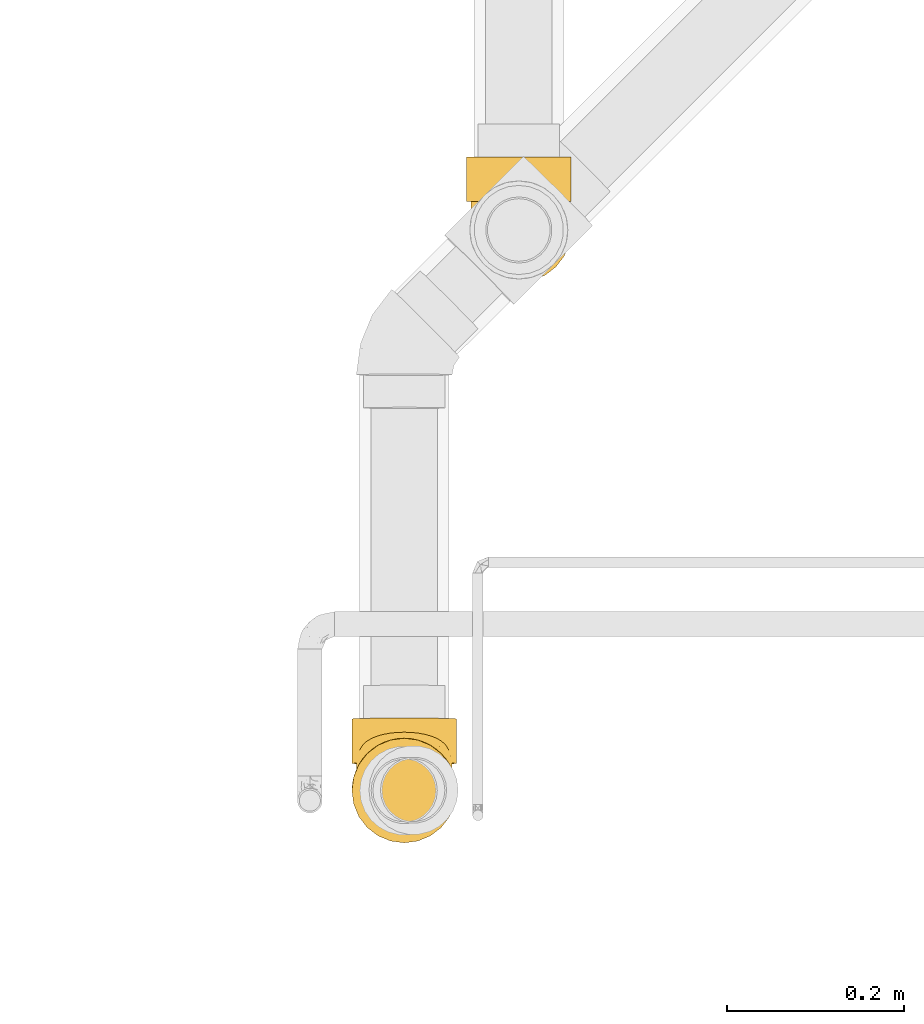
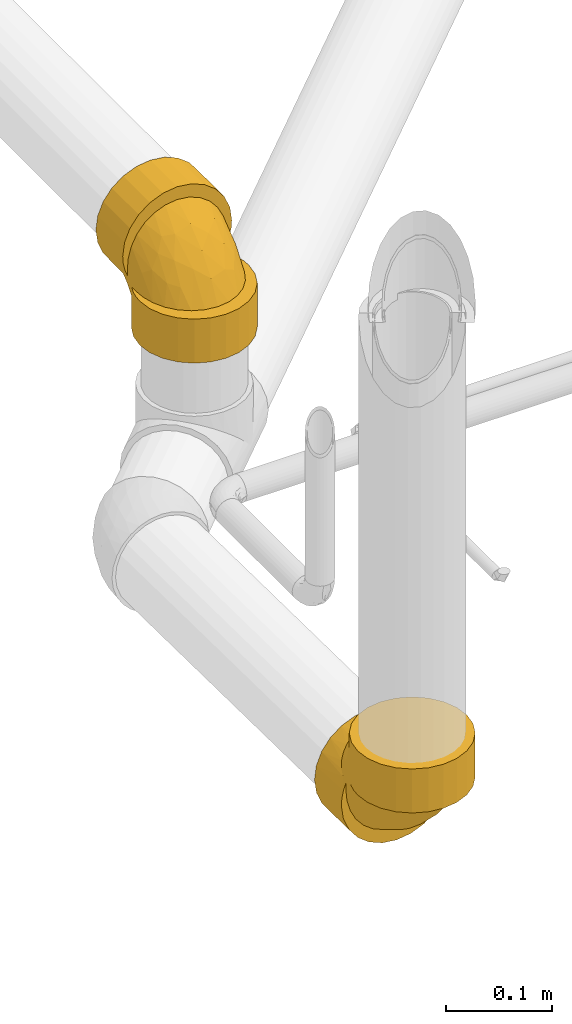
# One storey, part 15 of 156: 2 coverings.
"""IFC2X3 building model written with IfcOpenShell, lengths in millimetres."""

from ifc_helpers import new_model, entity, si_unit, converted_unit, derived_unit, direction, frame, origin_with_axes, place, context, subcontext, project, spatial, open_shell, surface_model, source, transform, mapped, element, save


model = new_model("IFC2X3")

# Units and contexts
model_context = context("Model", 3, precision=0.01, world=frame((0.0, 4.29681676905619e-09, 0.0)), true_north=direction((4.01073788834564e-13, 1.0)))
plan_context = context("Plan", 3, precision=0.01, world=frame((0.0, 4.29681676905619e-09, 0.0)), true_north=direction((4.01073788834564e-13, 1.0)))
body_context = subcontext(model_context, "Body", "Model", "MODEL_VIEW")
ifc_project = project(units=[converted_unit("PLANEANGLEUNIT", "DEGREE", entity("IfcPositiveLengthMeasure", 0.0174532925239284), si_unit("PLANEANGLEUNIT", "RADIAN"), dimensions=[0, 0, 0, 0, 0, 0, 0]), si_unit("AREAUNIT", "SQUARE_METRE"), si_unit("LENGTHUNIT", "METRE", prefix="MILLI"), si_unit("MASSUNIT", "GRAM", prefix="KILO"), si_unit("POWERUNIT", "WATT"), si_unit("PRESSUREUNIT", "PASCAL", prefix="KILO"), si_unit("FORCEUNIT", "NEWTON", prefix="KILO"), si_unit("ELECTRICVOLTAGEUNIT", "VOLT"), si_unit("ELECTRICCURRENTUNIT", "AMPERE"), si_unit("THERMODYNAMICTEMPERATUREUNIT", "DEGREE_CELSIUS"), si_unit("TIMEUNIT", "SECOND"), si_unit("VOLUMEUNIT", "CUBIC_METRE"), derived_unit("LINEARVELOCITYUNIT", [(si_unit("LENGTHUNIT", "METRE"), 1), (si_unit("TIMEUNIT", "SECOND"), -1)]), derived_unit("VOLUMETRICFLOWRATEUNIT", [(si_unit("VOLUMEUNIT", "CUBIC_METRE"), 1), (si_unit("TIMEUNIT", "SECOND"), -1)]), derived_unit("THERMALTRANSMITTANCEUNIT", [(si_unit("POWERUNIT", "WATT"), 1), (si_unit("THERMODYNAMICTEMPERATUREUNIT", "KELVIN"), -1), (si_unit("AREAUNIT", "SQUARE_METRE"), -1)]), derived_unit("SOUNDPRESSUREUNIT", [(si_unit("PRESSUREUNIT", "PASCAL"), 1)])], contexts=[model_context, plan_context])

# Site, building, storey
site_placement = place(None, frame((0.0, -4.29681676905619e-09, 0.0), z_axis=(0.0, 0.0, 1.0), x_axis=(1.0, 0.0, 0.0)))
site = spatial("IfcSite", under=ifc_project, at=site_placement, CompositionType="ELEMENT")
building_placement = place(site_placement, frame((0.0, 4.29681676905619e-09, 0.0), z_axis=(0.0, 0.0, 1.0), x_axis=(1.0, 0.0, 0.0)))
building = spatial("IfcBuilding", under=site, at=building_placement, Name="mc-building", CompositionType="ELEMENT")
storey_placement = place(building_placement, frame((0.0, 0.0, 205200.0), z_axis=(0.0, 0.0, 1.0), x_axis=(1.0, 0.0, 0.0)))
storey = spatial("IfcBuildingStorey", under=building, at=storey_placement, Name="Nivå D + 1,2 m", CompositionType="ELEMENT", Elevation=205200.0)

# Coverings
shared_shape_1 = source(origin_with_axes(), body_context, "Body", "SurfaceModel", [
    surface_model("IfcShellBasedSurfaceModel", [(-32.0, 8.41085, -58.64998), (-32.0, 16.6065, -56.87518), (-32.0, 17.26197, -54.25), (-32.0, 24.46457, -53.96339), (-32.0, 20.8661, -54.17668), (-32.0, -57.2311, -15.33503), (-32.0, -44.58388, 0.0), (-32.0, -59.25, 0.0), (-32.0, 20.8661, 54.17668), (-32.0, 24.46457, 53.96339), (-32.0, 16.6065, 56.87518), (-32.0, 17.26197, 54.25), (-32.0, 8.41085, 58.64998), (-32.0, -57.2311, 15.33503), (-82.5, 0.0, 59.25), (-82.5, 15.33503, 57.2311), (-82.5, 29.625, 51.31201), (-82.5, 51.31201, 29.625), (-82.5, 57.2311, 15.33503), (-82.5, 41.89608, 41.89608), (-82.5, -15.33503, 57.2311), (-82.5, -41.89608, 41.89608), (-82.5, -29.625, 51.31201), (-82.5, -57.2311, 15.33503), (-82.5, -51.31201, 29.625), (-82.5, 57.2311, -15.33503), (-82.5, -57.2311, -15.33503), (-82.5, -59.25, 0.0), (-82.5, 51.31201, -29.625), (-82.5, 29.625, -51.31201), (-82.5, 15.33503, -57.2311), (-82.5, 41.89608, -41.89608), (-82.5, -41.89608, -41.89608), (-82.5, -51.31201, -29.625), (-82.5, -29.625, -51.31201), (-82.5, 0.0, -59.25), (-82.5, -15.33503, -57.2311), (-82.5, 59.25, 0.0), (-66.45319, 59.25, 0.0), (-82.5, 58.24055, 7.66751), (-64.03864, 54.29672, 23.71559), (-82.5, 54.27156, 22.48001), (-66.18549, 58.68653, 8.1519), (-59.58833, 46.1673, 37.13681), (-65.38224, 57.01529, 16.11891), (-62.12931, 50.63153, 30.77353), (-56.28778, 41.12001, 42.65802), (-52.0235, 35.82362, 47.19355), (-39.78206, 26.81988, 52.83234), (-46.55227, 30.81047, 50.60907), (-32.0, 0.0, 59.25), (-32.0, -15.33503, 57.2311), (-32.0, -41.89608, 41.89608), (-32.0, -29.625, 51.31201), (-32.0, -51.31201, 29.625), (-32.0, -51.31201, -29.625), (-32.0, -41.89608, -41.89608), (-32.0, -29.625, -51.31201), (-32.0, -15.33503, -57.2311), (-32.0, 0.0, -59.25), (-52.0235, 35.82362, -47.19355), (-46.55227, 30.81047, -50.60907), (-66.18549, 58.68653, -8.1519), (-82.5, 58.24055, -7.66751), (-39.78206, 26.81988, -52.83234), (-64.03864, 54.29672, -23.71559), (-82.5, 54.27156, -22.48001), (-59.58833, 46.1673, -37.13681), (-65.38224, 57.01529, -16.11891), (-56.28778, 41.12001, -42.65802), (-62.12931, 50.63153, -30.77353), (57.2311, 32.0, -15.33503), (59.25, 32.0, 0.0), (44.58388, 32.0, 0.0), (-17.26197, 32.0, -54.25), (-16.6065, 32.0, -56.87518), (-8.41085, 32.0, -58.64998), (-20.8661, 32.0, -54.17668), (-24.46457, 32.0, -53.96339), (-24.46457, 32.0, 53.96339), (-20.8661, 32.0, 54.17668), (-16.6065, 32.0, 56.87518), (-17.26197, 32.0, 54.25), (-8.41085, 32.0, 58.64998), (57.2311, 32.0, 15.33503), (0.0, 82.5, 59.25), (15.33503, 82.5, 57.2311), (29.625, 82.5, 51.31201), (51.31201, 82.5, 29.625), (41.89608, 82.5, 41.89608), (-15.33503, 82.5, 57.2311), (-41.89608, 82.5, 41.89608), (-29.625, 82.5, 51.31201), (-57.2311, 82.5, 15.33503), (-51.31201, 82.5, 29.625), (57.2311, 82.5, -15.33503), (57.2311, 82.5, 15.33503), (59.25, 82.5, 0.0), (51.31201, 32.0, 29.625), (41.89608, 32.0, 41.89608), (29.625, 32.0, 51.31201), (15.33503, 32.0, 57.2311), (0.0, 32.0, 59.25), (-35.82362, 52.0235, 47.19355), (-30.81047, 46.55227, 50.60907), (-58.68653, 66.18549, 8.1519), (-58.24055, 82.5, 7.66751), (-26.81988, 39.78206, 52.83234), (-54.29672, 64.03864, 23.71559), (-54.27156, 82.5, 22.48001), (-46.1673, 59.58833, 37.13681), (-59.25, 82.5, 0.0), (-59.25, 66.45319, 0.0), (-57.01529, 65.38224, 16.11891), (-41.12001, 56.28778, 42.65802), (-50.63153, 62.12931, 30.77353), (-58.24055, 82.5, -7.66751), (-54.29672, 64.03864, -23.71559), (-54.27156, 82.5, -22.48001), (-51.31201, 82.5, -29.625), (-58.68653, 66.18549, -8.1519), (-57.2311, 82.5, -15.33503), (-46.1673, 59.58833, -37.13681), (-41.89608, 82.5, -41.89608), (-57.01529, 65.38224, -16.11891), (-50.63153, 62.12931, -30.77353), (-41.12001, 56.28778, -42.65802), (-35.82362, 52.0235, -47.19355), (-26.81988, 39.78206, -52.83234), (-29.625, 82.5, -51.31201), (-15.33503, 82.5, -57.2311), (-30.81047, 46.55227, -50.60907), (0.0, 82.5, -59.25), (0.0, 32.0, -59.25), (15.33503, 82.5, -57.2311), (15.33503, 32.0, -57.2311), (29.625, 82.5, -51.31201), (29.625, 32.0, -51.31201), (41.89608, 82.5, -41.89608), (41.89608, 32.0, -41.89608), (51.31201, 32.0, -29.625), (51.31201, 82.5, -29.625), (-41.88717, 41.88717, 48.11257), (-61.44486, 61.44486, 12.77852), (-24.16369, 24.16369, 54.25), (-28.51203, 20.33396, 54.25), (-20.33396, 28.51203, 54.25), (-57.00686, 57.00686, 28.0306), (-50.1534, 50.1534, 39.90153), (-62.52423, 62.52423, 0.0), (-59.60263, 59.60264, -20.76594), (-53.80982, 53.80982, -34.42785), (-61.84432, 61.84433, -10.16869), (-46.15393, 46.15393, -44.45133), (-37.33805, 37.33805, -50.95032), (-20.33396, 28.51203, -54.25), (-28.51203, 20.33396, -54.25), (-24.16369, 24.16369, -54.25), (-32.0, -8.40767, 49.81096), (-32.0, 4.22808, 53.19455), (-32.0, -20.08978, 43.91948), (-32.0, -42.89141, 12.96252), (-32.0, -37.95287, 25.06845), (-32.0, -30.16019, 35.57071), (42.89141, 32.0, 12.96252), (37.95287, 32.0, 25.06845), (30.16019, 32.0, 35.57071), (20.08978, 32.0, 43.91948), (-4.22808, 32.0, 53.19455), (8.40767, 32.0, 49.81096), (-2.34317, 2.34317, 44.61829), (-7.34968, -31.74969, 0.0), (-11.88948, -24.72354, 28.94168), (2.49402, -22.28323, 13.97019), (-9.92378, -14.49886, 38.07406), (9.10917, -9.10918, 26.99807), (27.12067, 5.75185, 17.59648), (14.19685, -14.19685, 0.0), (31.74969, 7.34968, 0.0), (11.94466, 4.57742, 36.71245), (24.76323, 11.80749, 28.81724), (-9.19121, 11.22481, 50.52862), (-32.0, 4.22808, -53.19455), (-32.0, -8.40767, -49.81096), (-32.0, -20.08978, -43.91948), (-32.0, -30.16019, -35.57071), (-32.0, -37.95287, -25.06845), (-32.0, -42.89141, -12.96252), (30.16019, 32.0, -35.57071), (37.95287, 32.0, -25.06845), (20.08978, 32.0, -43.91948), (42.89141, 32.0, -12.96252), (-4.22808, 32.0, -53.19455), (8.40767, 32.0, -49.81096), (-2.34317, 2.34317, -44.61829), (14.49886, 9.92378, -38.07406), (-4.57742, -11.94466, -36.71245), (24.72353, 11.88948, -28.94168), (9.10917, -9.10918, -26.99807), (-11.22481, 9.19121, -50.52862), (22.28323, -2.49403, -13.97019), (-5.75186, -27.12067, -17.59648), (-11.8075, -24.76323, -28.81724)], [open_shell([[[0, 1, 2]], [[3, 4, 1]], [[4, 2, 1]], [[5, 6, 7]], [[8, 9, 10]], [[11, 10, 12]], [[10, 11, 8]], [[7, 6, 13]], [[14, 15, 16]], [[14, 16, 17]], [[17, 18, 14]], [[17, 16, 19]], [[14, 18, 20]], [[20, 21, 22]], [[21, 20, 23]], [[21, 23, 24]], [[23, 20, 25]], [[23, 26, 27]], [[25, 20, 18]], [[26, 23, 25]], [[28, 26, 25]], [[29, 30, 28]], [[29, 28, 31]], [[30, 32, 28]], [[28, 33, 26]], [[28, 32, 33]], [[34, 35, 36]], [[35, 34, 32]], [[30, 35, 32]], [[25, 18, 37]], [[38, 37, 39]], [[40, 41, 17]], [[39, 18, 42]], [[43, 17, 19]], [[44, 42, 18]], [[45, 40, 17]], [[43, 45, 17]], [[18, 41, 44]], [[19, 46, 43]], [[46, 19, 47]], [[48, 16, 15]], [[16, 49, 47]], [[19, 16, 47]], [[12, 15, 14]], [[38, 39, 42]], [[49, 16, 48]], [[9, 48, 10]], [[44, 41, 40]], [[10, 48, 15]], [[15, 12, 10]], [[14, 50, 12]], [[51, 14, 20]], [[50, 14, 51]], [[52, 53, 22]], [[53, 51, 20]], [[22, 53, 20]], [[22, 21, 52]], [[54, 24, 23]], [[13, 23, 27]], [[52, 24, 54]], [[54, 23, 13]], [[27, 7, 13]], [[24, 52, 21]], [[27, 26, 5]], [[7, 27, 5]], [[33, 55, 5]], [[56, 55, 33]], [[26, 33, 5]], [[33, 32, 56]], [[57, 34, 36]], [[58, 36, 35]], [[56, 34, 57]], [[57, 36, 58]], [[35, 59, 58]], [[34, 56, 32]], [[0, 35, 30]], [[29, 60, 61]], [[60, 29, 31]], [[62, 25, 63]], [[30, 29, 64]], [[61, 64, 29]], [[59, 35, 0]], [[1, 64, 3]], [[1, 0, 30]], [[65, 28, 66]], [[64, 1, 30]], [[67, 31, 28]], [[63, 37, 38]], [[25, 68, 66]], [[38, 62, 63]], [[67, 69, 31]], [[70, 67, 28]], [[65, 66, 68]], [[62, 68, 25]], [[70, 28, 65]], [[31, 69, 60]], [[71, 72, 73]], [[74, 75, 76]], [[77, 78, 75]], [[74, 77, 75]], [[79, 80, 81]], [[82, 83, 81]], [[82, 81, 80]], [[73, 72, 84]], [[85, 86, 87]], [[88, 87, 89]], [[90, 91, 92]], [[91, 90, 93]], [[91, 93, 94]], [[95, 96, 97]], [[84, 97, 96]], [[98, 96, 88]], [[72, 97, 84]], [[98, 89, 99]], [[98, 84, 96]], [[89, 98, 88]], [[100, 87, 86]], [[101, 86, 85]], [[99, 87, 100]], [[101, 100, 86]], [[102, 101, 85]], [[87, 99, 89]], [[83, 85, 90]], [[92, 103, 104]], [[103, 92, 91]], [[105, 93, 106]], [[90, 92, 107]], [[104, 107, 92]], [[102, 85, 83]], [[81, 107, 79]], [[81, 83, 90]], [[108, 94, 109]], [[107, 81, 90]], [[110, 91, 94]], [[106, 111, 112]], [[93, 113, 109]], [[112, 105, 106]], [[110, 114, 91]], [[115, 110, 94]], [[108, 109, 113]], [[105, 113, 93]], [[115, 94, 108]], [[91, 114, 103]], [[112, 111, 116]], [[117, 118, 119]], [[120, 116, 121]], [[122, 119, 123]], [[124, 120, 121]], [[125, 117, 119]], [[122, 125, 119]], [[121, 118, 124]], [[123, 126, 122]], [[126, 123, 127]], [[128, 129, 130]], [[129, 131, 127]], [[123, 129, 127]], [[76, 130, 132]], [[112, 116, 120]], [[131, 129, 128]], [[78, 128, 75]], [[124, 118, 117]], [[75, 128, 130]], [[130, 76, 75]], [[132, 133, 76]], [[132, 134, 135]], [[133, 132, 135]], [[136, 137, 135]], [[137, 136, 138]], [[134, 136, 135]], [[138, 139, 137]], [[140, 141, 95]], [[71, 95, 97]], [[139, 141, 140]], [[140, 95, 71]], [[97, 72, 71]], [[141, 139, 138]], [[142, 49, 48]], [[105, 143, 113]], [[142, 48, 107]], [[144, 9, 145]], [[79, 146, 80]], [[8, 145, 9]], [[9, 107, 48]], [[108, 147, 115]], [[46, 142, 148]], [[142, 46, 47]], [[147, 43, 148]], [[104, 103, 142]], [[40, 45, 147]], [[114, 110, 148]], [[149, 38, 42]], [[143, 40, 147]], [[44, 143, 42]], [[9, 144, 79]], [[146, 79, 144]], [[80, 146, 82]], [[147, 45, 43]], [[8, 11, 145]], [[47, 49, 142]], [[143, 44, 40]], [[114, 148, 142]], [[104, 142, 107]], [[148, 43, 46]], [[149, 105, 112]], [[42, 143, 149]], [[110, 115, 147]], [[108, 143, 147]], [[142, 103, 114]], [[105, 149, 143]], [[108, 113, 143]], [[148, 110, 147]], [[9, 79, 107]], [[70, 65, 150]], [[150, 151, 70]], [[38, 149, 62]], [[149, 152, 62]], [[127, 153, 126]], [[68, 62, 152]], [[128, 154, 131]], [[67, 151, 153]], [[64, 61, 154]], [[154, 60, 153]], [[124, 152, 120]], [[77, 74, 155]], [[128, 3, 64]], [[156, 2, 4]], [[125, 122, 151]], [[3, 157, 156]], [[124, 117, 150]], [[153, 60, 69]], [[152, 149, 120]], [[153, 69, 67]], [[154, 61, 60]], [[150, 65, 68]], [[152, 124, 150]], [[151, 67, 70]], [[122, 153, 151]], [[150, 125, 151]], [[127, 131, 154]], [[78, 77, 155]], [[157, 3, 78]], [[3, 156, 4]], [[78, 155, 157]], [[78, 3, 128]], [[150, 117, 125]], [[122, 126, 153]], [[154, 128, 64]], [[153, 127, 154]], [[68, 152, 150]], [[120, 149, 112]], [[85, 87, 88]], [[88, 96, 85]], [[85, 96, 90]], [[93, 90, 95]], [[93, 121, 111]], [[95, 90, 96]], [[121, 93, 95]], [[141, 121, 95]], [[136, 134, 141]], [[136, 141, 138]], [[134, 123, 141]], [[141, 119, 121]], [[141, 123, 119]], [[129, 132, 130]], [[132, 129, 123]], [[134, 132, 123]], [[158, 159, 50]], [[50, 51, 158]], [[158, 51, 160]], [[13, 161, 54]], [[161, 162, 54]], [[6, 161, 13]], [[160, 53, 163]], [[53, 160, 51]], [[162, 52, 54]], [[52, 162, 163]], [[52, 163, 53]], [[84, 164, 73]], [[98, 165, 164]], [[164, 84, 98]], [[99, 166, 165]], [[166, 100, 167]], [[100, 166, 99]], [[167, 100, 101]], [[99, 165, 98]], [[168, 169, 102]], [[83, 168, 102]], [[82, 168, 83]], [[102, 169, 101]], [[169, 167, 101]], [[167, 169, 170]], [[161, 6, 171]], [[162, 172, 163]], [[161, 171, 173]], [[170, 160, 174]], [[175, 172, 173]], [[176, 177, 178]], [[176, 173, 177]], [[160, 170, 158]], [[159, 144, 11]], [[168, 144, 159]], [[179, 180, 166]], [[158, 181, 159]], [[170, 181, 158]], [[168, 159, 181]], [[171, 177, 173]], [[175, 173, 176]], [[176, 164, 165]], [[161, 173, 162]], [[180, 176, 165]], [[164, 178, 73]], [[166, 180, 165]], [[176, 180, 175]], [[160, 163, 174]], [[179, 167, 170]], [[179, 174, 175]], [[144, 168, 82]], [[181, 169, 168]], [[169, 181, 170]], [[173, 172, 162]], [[167, 179, 166]], [[179, 170, 174]], [[180, 179, 175]], [[174, 172, 175]], [[178, 164, 176]], [[172, 174, 163]], [[182, 59, 0]], [[183, 58, 59]], [[182, 183, 59]], [[2, 182, 0]], [[58, 183, 184]], [[57, 184, 185]], [[184, 57, 58]], [[56, 185, 186]], [[185, 56, 57]], [[186, 187, 55]], [[187, 5, 55]], [[5, 187, 6]], [[186, 55, 56]], [[159, 12, 50]], [[159, 11, 12]], [[139, 188, 137]], [[188, 139, 189]], [[137, 190, 135]], [[190, 137, 188]], [[140, 71, 191]], [[191, 189, 140]], [[73, 191, 71]], [[140, 189, 139]], [[76, 133, 192]], [[193, 133, 135]], [[193, 192, 133]], [[192, 74, 76]], [[135, 190, 193]], [[194, 195, 196]], [[195, 197, 198]], [[182, 2, 157]], [[184, 196, 185]], [[193, 190, 194]], [[199, 194, 183]], [[200, 197, 189]], [[182, 199, 183]], [[6, 187, 171]], [[187, 186, 201]], [[185, 202, 186]], [[194, 196, 184]], [[186, 202, 201]], [[190, 188, 195]], [[192, 182, 157]], [[201, 202, 198]], [[194, 199, 193]], [[196, 195, 198]], [[194, 190, 195]], [[193, 199, 192]], [[182, 192, 199]], [[184, 183, 194]], [[197, 195, 188]], [[196, 202, 185]], [[188, 189, 197]], [[177, 200, 178]], [[191, 73, 178]], [[198, 200, 201]], [[198, 197, 200]], [[200, 191, 178]], [[201, 171, 187]], [[191, 200, 189]], [[201, 200, 177]], [[192, 157, 74]], [[202, 196, 198]], [[201, 177, 171]]])]),
])
covering_1_placement = place(storey_placement, frame((322778.39808, 462759.88016, 4241.63939), z_axis=(1.0, 0.0, 0.0), x_axis=(0.0, -1.0, 0.0)))
element("IfcCovering", 1, at=covering_1_placement, inside=storey, Name="BI17T - Cellegummi 13 mm SPV fett", PredefinedType="INSULATION", context=body_context, shape_type="MappedRepresentation", body=[
    mapped(shared_shape_1, transform((0.0, 0.0, 0.0), scale=1.0)),
])
shared_shape_2 = source(origin_with_axes(), body_context, "Body", "SurfaceModel", [
    surface_model("IfcShellBasedSurfaceModel", [(-30.63646, 4.22808, -53.19455), (-30.63646, 0.0, -59.25), (-30.63646, 8.41277, -58.6497), (-30.63646, -8.40767, -49.81096), (-30.63646, -15.33503, -57.2311), (-30.63646, 16.60861, -56.87457), (-30.63646, 17.26197, -54.25), (-30.63646, 24.46457, -53.96339), (-30.63646, 20.8661, -54.17668), (-30.63646, -20.08978, -43.91948), (-30.63646, -29.625, -51.31201), (-30.63646, -30.16019, -35.57071), (-30.63646, -41.89608, -41.89608), (-30.63646, -37.95287, -25.06845), (-30.63646, -42.89141, -12.96252), (-30.63646, -51.31201, -29.625), (-30.63646, -57.2311, -15.33503), (-30.63646, -44.58388, 0.0), (-30.63646, -59.25, 0.0), (-30.63646, 20.8661, 54.17668), (-30.63646, 24.46457, 53.96339), (-30.63646, 16.60861, 56.87457), (-30.63646, -8.40767, 49.81096), (-30.63646, 4.22808, 53.19455), (-30.63646, 0.0, 59.25), (-30.63646, 17.26197, 54.25), (-30.63646, 8.41277, 58.6497), (-30.63646, -15.33503, 57.2311), (-30.63646, -20.08978, 43.91948), (-30.63646, -57.2311, 15.33503), (-30.63646, -42.89141, 12.96252), (-30.63646, -51.31201, 29.625), (-30.63646, -37.95287, 25.06845), (-30.63646, -29.625, 51.31201), (-30.63646, -30.16019, 35.57071), (-30.63646, -41.89608, 41.89608), (-81.13645, 0.0, 59.25), (-81.13645, 15.33503, 57.2311), (-81.13645, 29.625, 51.31201), (-81.13645, 51.31201, 29.625), (-81.13645, 57.2311, 15.33503), (-81.13645, 41.89608, 41.89608), (-81.13645, -15.33503, 57.2311), (-81.13645, -41.89608, 41.89608), (-81.13645, -29.625, 51.31201), (-81.13645, -57.2311, 15.33503), (-81.13645, -51.31201, 29.625), (-81.13645, 57.2311, -15.33503), (-81.13645, -57.2311, -15.33503), (-81.13645, -59.25, 0.0), (-81.13645, 51.31201, -29.625), (-81.13645, 29.625, -51.31201), (-81.13645, 15.33503, -57.2311), (-81.13645, 41.89608, -41.89608), (-81.13645, -41.89608, -41.89608), (-81.13645, -51.31201, -29.625), (-81.13645, -29.625, -51.31201), (-81.13645, 0.0, -59.25), (-81.13645, -15.33503, -57.2311), (-81.13645, 59.25, 0.0), (-65.08965, 59.25, 0.0), (-81.13645, 58.24055, 7.66751), (-62.67509, 54.29672, 23.71559), (-81.13645, 54.27156, 22.48001), (-64.82195, 58.68653, 8.1519), (-58.22479, 46.1673, 37.13681), (-64.0187, 57.01529, 16.11891), (-60.76577, 50.63153, 30.77353), (-54.92424, 41.12001, 42.65802), (-50.65996, 35.82362, 47.19355), (-38.41851, 26.81988, 52.83234), (-45.18873, 30.81047, 50.60907), (-50.65996, 35.82362, -47.19355), (-45.18873, 30.81047, -50.60907), (-64.82195, 58.68653, -8.1519), (-81.13645, 58.24055, -7.66751), (-38.41851, 26.81988, -52.83234), (-62.67509, 54.29672, -23.71559), (-81.13645, 54.27156, -22.48001), (-58.22479, 46.1673, -37.13681), (-64.0187, 57.01529, -16.11891), (-54.92424, 41.12001, -42.65802), (-60.76577, 50.63153, -30.77353), (42.4008, 29.93403, -41.89608), (30.66654, 30.1296, -35.57071), (30.13142, 30.13852, -51.31201), (38.45814, 29.99974, -25.06845), (20.59753, 30.29742, -43.91948), (15.84344, 30.37665, -57.2311), (51.81541, 29.77712, -29.625), (57.73369, 29.67848, -15.33503), (43.39599, 29.91745, -12.96252), (45.08823, 29.88924, 0.0), (59.75231, 29.64484, 0.0), (-7.90062, 30.77239, -58.64977), (0.51054, 30.6322, -59.25), (-3.71695, 30.70266, -53.19455), (-16.74904, 30.91986, -54.25), (-16.09444, 30.90895, -56.87495), (8.91704, 30.4921, -49.81096), (-20.35267, 30.97992, -54.17668), (-23.95063, 31.03989, -53.96339), (57.73369, 29.67848, 15.33503), (43.39599, 29.91745, 12.96252), (51.81541, 29.77712, 29.625), (38.45814, 29.99974, 25.06845), (42.4008, 29.93403, 41.89608), (30.66654, 30.1296, 35.57071), (30.13142, 30.13852, 51.31201), (20.59753, 30.29742, 43.91948), (15.84344, 30.37665, 57.2311), (-3.71695, 30.70266, 53.19455), (8.91704, 30.4921, 49.81096), (0.51054, 30.6322, 59.25), (-23.95063, 31.03989, 53.96339), (-20.35267, 30.97992, 54.17668), (-16.09444, 30.90895, 56.87495), (-7.90062, 30.77239, 58.64977), (-16.74904, 30.91986, 54.25), (58.57524, 80.17147, 15.33503), (1.35209, 81.12519, 59.25), (16.68499, 80.86965, 57.2311), (52.65696, 80.27011, 29.625), (30.97297, 80.63151, 51.31201), (43.24235, 80.42702, 41.89608), (-13.98081, 81.38074, 57.2311), (-40.53817, 81.82336, 41.89608), (-28.2688, 81.61887, 51.31201), (-49.95279, 81.98027, 29.625), (-57.88969, 82.11256, 0.0), (-55.87107, 82.07891, 15.33503), (-49.95279, 81.98027, -29.625), (-13.98081, 81.38074, -57.2311), (52.65696, 80.27011, -29.625), (58.57524, 80.17147, -15.33503), (16.68499, 80.86965, -57.2311), (43.24235, 80.42702, -41.89608), (30.97297, 80.63151, -51.31201), (-28.2688, 81.61887, -51.31201), (-40.53817, 81.82336, -41.89608), (-55.87107, 82.07891, -15.33503), (1.35209, 81.12519, -59.25), (60.59386, 80.13783, 0.0), (-34.97443, 51.2499, 47.19355), (-30.05315, 45.69589, 50.60907), (-57.59816, 65.79092, 8.1519), (-56.88038, 82.09573, 7.66751), (-26.17593, 38.86011, 52.83234), (-53.24474, 63.57121, 23.71559), (-52.91193, 82.0296, 22.48001), (-45.19061, 58.98605, 37.13681), (-58.1571, 66.06797, 0.0), (-55.94054, 64.95993, 16.11891), (-40.19903, 55.60185, 42.65802), (-49.61188, 61.60107, 30.77353), (-56.88038, 82.09573, -7.66751), (-53.24474, 63.57121, -23.71559), (-52.91193, 82.0296, -22.48001), (-57.59816, 65.79092, -8.1519), (-45.19061, 58.98605, -37.13681), (-55.94054, 64.95993, -16.11891), (-49.61188, 61.60107, -30.77353), (-40.19903, 55.60185, -42.65802), (-34.97443, 51.2499, -47.19355), (-26.17593, 38.86011, -52.83234), (-30.05315, 45.69589, -50.60907), (-1.75134, 1.78077, 44.7176), (-6.46278, -32.06179, 0.0), (-11.04332, -25.01886, 28.99951), (3.19346, -22.79659, 14.03402), (14.75132, -14.99922, 0.0), (-8.79357, -14.6253, 38.11286), (9.66, -9.82234, 27.1126), (27.41312, 4.26587, 17.63327), (-23.28826, 23.67963, 54.25), (13.49542, 4.96901, 36.82536), (25.26935, 10.46677, 28.76658), (-8.89114, 10.2457, 50.55583), (32.16504, 5.92759, 0.0), (-40.80762, 41.49342, 48.15396), (-55.86839, 56.80729, 28.00277), (-49.05737, 49.8818, 39.90566), (-60.26203, 61.27477, 12.75178), (-61.32783, 62.35848, 0.0), (-55.86839, 56.80729, -28.00278), (-49.05736, 49.8818, -39.90566), (-60.26203, 61.27477, -12.75178), (-40.80762, 41.49342, -48.15396), (-23.28826, 23.67963, -54.25), (-1.75134, 1.78077, -44.7176), (14.76981, 8.54863, -38.11286), (-5.19322, -13.41074, -36.82536), (25.19941, 10.62486, -28.99951), (9.66, -9.82234, -27.1126), (-10.09611, 9.06064, -50.55583), (22.74021, -3.57291, -14.03402), (-10.88641, -25.09142, -28.76658), (-4.72211, -27.33823, -17.63327)], [open_shell([[[0, 1, 2]], [[3, 4, 1]], [[2, 5, 6]], [[7, 8, 5]], [[0, 3, 1]], [[6, 0, 2]], [[8, 6, 5]], [[4, 3, 9]], [[10, 9, 11]], [[9, 10, 4]], [[12, 11, 13]], [[11, 12, 10]], [[13, 14, 15]], [[14, 16, 15]], [[16, 14, 17]], [[16, 17, 18]], [[13, 15, 12]], [[19, 20, 21]], [[22, 23, 24]], [[25, 21, 26]], [[21, 25, 19]], [[24, 27, 22]], [[23, 26, 24]], [[23, 25, 26]], [[22, 27, 28]], [[29, 30, 31]], [[18, 17, 29]], [[30, 32, 31]], [[17, 30, 29]], [[28, 33, 34]], [[33, 28, 27]], [[32, 35, 31]], [[35, 32, 34]], [[35, 34, 33]], [[36, 37, 38]], [[36, 38, 39]], [[39, 40, 36]], [[39, 38, 41]], [[36, 40, 42]], [[42, 43, 44]], [[43, 42, 45]], [[43, 45, 46]], [[45, 42, 47]], [[45, 48, 49]], [[47, 42, 40]], [[48, 45, 47]], [[50, 48, 47]], [[51, 52, 50]], [[51, 50, 53]], [[52, 54, 50]], [[50, 55, 48]], [[50, 54, 55]], [[56, 57, 58]], [[57, 56, 54]], [[52, 57, 54]], [[47, 40, 59]], [[60, 59, 61]], [[62, 63, 39]], [[61, 40, 64]], [[65, 39, 41]], [[66, 64, 40]], [[67, 62, 39]], [[65, 67, 39]], [[40, 63, 66]], [[41, 68, 65]], [[68, 41, 69]], [[70, 38, 37]], [[38, 71, 69]], [[41, 38, 69]], [[26, 37, 36]], [[60, 61, 64]], [[71, 38, 70]], [[20, 70, 21]], [[66, 63, 62]], [[21, 70, 37]], [[37, 26, 21]], [[36, 24, 26]], [[27, 36, 42]], [[24, 36, 27]], [[35, 33, 44]], [[33, 27, 42]], [[44, 33, 42]], [[44, 43, 35]], [[31, 46, 45]], [[29, 45, 49]], [[35, 46, 31]], [[31, 45, 29]], [[49, 18, 29]], [[46, 35, 43]], [[49, 48, 16]], [[18, 49, 16]], [[55, 15, 16]], [[12, 15, 55]], [[48, 55, 16]], [[55, 54, 12]], [[10, 56, 58]], [[4, 58, 57]], [[12, 56, 10]], [[10, 58, 4]], [[57, 1, 4]], [[56, 12, 54]], [[2, 57, 52]], [[51, 72, 73]], [[72, 51, 53]], [[74, 47, 75]], [[52, 51, 76]], [[73, 76, 51]], [[1, 57, 2]], [[5, 76, 7]], [[5, 2, 52]], [[77, 50, 78]], [[76, 5, 52]], [[79, 53, 50]], [[75, 59, 60]], [[47, 80, 78]], [[60, 74, 75]], [[79, 81, 53]], [[82, 79, 50]], [[77, 78, 80]], [[74, 80, 47]], [[82, 50, 77]], [[53, 81, 72]], [[83, 84, 85]], [[84, 83, 86]], [[85, 87, 88]], [[87, 85, 84]], [[89, 90, 91]], [[91, 86, 89]], [[92, 91, 90]], [[90, 93, 92]], [[89, 86, 83]], [[94, 95, 96]], [[97, 98, 94]], [[99, 95, 88]], [[99, 96, 95]], [[100, 101, 98]], [[97, 100, 98]], [[96, 97, 94]], [[88, 87, 99]], [[102, 103, 92]], [[104, 105, 103]], [[103, 102, 104]], [[106, 107, 105]], [[107, 108, 109]], [[108, 107, 106]], [[109, 108, 110]], [[106, 105, 104]], [[111, 112, 113]], [[114, 115, 116]], [[117, 111, 113]], [[118, 117, 116]], [[118, 111, 117]], [[118, 116, 115]], [[113, 112, 110]], [[112, 109, 110]], [[92, 93, 102]], [[119, 120, 121]], [[122, 121, 123]], [[122, 119, 121]], [[122, 123, 124]], [[120, 119, 125]], [[125, 126, 127]], [[126, 125, 128]], [[128, 129, 130]], [[131, 129, 128]], [[132, 128, 125]], [[125, 119, 133]], [[119, 134, 133]], [[133, 135, 125]], [[136, 137, 135]], [[136, 135, 133]], [[132, 125, 135]], [[131, 138, 139]], [[140, 129, 131]], [[131, 132, 138]], [[128, 132, 131]], [[141, 132, 135]], [[119, 142, 134]], [[102, 142, 119]], [[104, 119, 122]], [[93, 142, 102]], [[104, 124, 106]], [[104, 102, 119]], [[124, 104, 122]], [[108, 123, 121]], [[110, 121, 120]], [[106, 123, 108]], [[110, 108, 121]], [[113, 110, 120]], [[123, 106, 124]], [[117, 120, 125]], [[127, 143, 144]], [[143, 127, 126]], [[145, 130, 146]], [[125, 127, 147]], [[144, 147, 127]], [[113, 120, 117]], [[116, 147, 114]], [[116, 117, 125]], [[148, 128, 149]], [[147, 116, 125]], [[150, 126, 128]], [[146, 129, 151]], [[130, 152, 149]], [[151, 145, 146]], [[150, 153, 126]], [[154, 150, 128]], [[148, 149, 152]], [[145, 152, 130]], [[154, 128, 148]], [[126, 153, 143]], [[151, 129, 155]], [[156, 157, 131]], [[158, 155, 140]], [[159, 131, 139]], [[160, 158, 140]], [[161, 156, 131]], [[159, 161, 131]], [[140, 157, 160]], [[139, 162, 159]], [[162, 139, 163]], [[164, 138, 132]], [[138, 165, 163]], [[139, 138, 163]], [[94, 132, 141]], [[151, 155, 158]], [[165, 138, 164]], [[101, 164, 98]], [[160, 157, 156]], [[98, 164, 132]], [[132, 94, 98]], [[141, 95, 94]], [[141, 135, 88]], [[95, 141, 88]], [[137, 85, 88]], [[85, 137, 136]], [[135, 137, 88]], [[136, 83, 85]], [[89, 133, 134]], [[90, 134, 142]], [[83, 133, 89]], [[89, 134, 90]], [[142, 93, 90]], [[133, 83, 136]], [[109, 112, 166]], [[30, 17, 167]], [[32, 168, 34]], [[169, 167, 170]], [[166, 28, 171]], [[30, 167, 169]], [[169, 172, 168]], [[173, 169, 170]], [[28, 166, 22]], [[23, 174, 25]], [[111, 174, 23]], [[175, 176, 107]], [[22, 177, 23]], [[166, 177, 22]], [[111, 23, 177]], [[178, 173, 170]], [[172, 169, 173]], [[105, 173, 103]], [[32, 30, 169]], [[176, 173, 105]], [[103, 178, 92]], [[107, 176, 105]], [[173, 176, 172]], [[28, 34, 171]], [[175, 109, 166]], [[175, 171, 172]], [[174, 111, 118]], [[177, 112, 111]], [[112, 177, 166]], [[169, 168, 32]], [[109, 175, 107]], [[175, 166, 171]], [[176, 175, 172]], [[171, 168, 172]], [[103, 173, 178]], [[168, 171, 34]], [[179, 71, 70]], [[179, 70, 147]], [[25, 174, 19]], [[150, 154, 180]], [[20, 19, 174]], [[179, 181, 68]], [[179, 143, 153]], [[147, 70, 20]], [[179, 68, 69]], [[180, 65, 181]], [[182, 66, 62]], [[62, 67, 180]], [[180, 67, 65]], [[183, 60, 64]], [[182, 62, 180]], [[66, 182, 64]], [[20, 174, 114]], [[174, 115, 114]], [[115, 174, 118]], [[144, 143, 179]], [[153, 150, 181]], [[69, 71, 179]], [[153, 181, 179]], [[144, 179, 147]], [[181, 65, 68]], [[183, 145, 151]], [[64, 182, 183]], [[148, 180, 154]], [[148, 182, 180]], [[145, 182, 152]], [[145, 183, 182]], [[148, 152, 182]], [[181, 150, 180]], [[20, 114, 147]], [[79, 184, 185]], [[77, 184, 82]], [[60, 183, 74]], [[186, 80, 74]], [[165, 187, 163]], [[77, 186, 184]], [[185, 81, 79]], [[73, 187, 76]], [[72, 187, 73]], [[79, 82, 184]], [[164, 7, 76]], [[188, 6, 8]], [[80, 186, 77]], [[8, 7, 188]], [[186, 74, 183]], [[81, 185, 187]], [[186, 183, 158]], [[187, 72, 81]], [[184, 186, 156]], [[186, 158, 160]], [[185, 184, 159]], [[163, 187, 162]], [[184, 156, 161]], [[162, 187, 185]], [[188, 101, 100]], [[7, 101, 188]], [[162, 185, 159]], [[188, 100, 97]], [[164, 101, 7]], [[186, 160, 156]], [[184, 161, 159]], [[187, 164, 76]], [[165, 164, 187]], [[158, 183, 151]], [[189, 190, 191]], [[190, 192, 193]], [[0, 6, 188]], [[9, 191, 11]], [[99, 87, 189]], [[194, 189, 3]], [[195, 192, 86]], [[0, 194, 3]], [[17, 14, 167]], [[196, 197, 13]], [[11, 196, 13]], [[189, 191, 9]], [[14, 13, 197]], [[87, 84, 190]], [[96, 0, 188]], [[197, 196, 193]], [[189, 194, 99]], [[191, 190, 193]], [[189, 87, 190]], [[99, 194, 96]], [[0, 96, 194]], [[9, 3, 189]], [[192, 190, 84]], [[191, 196, 11]], [[84, 86, 192]], [[170, 195, 178]], [[91, 92, 178]], [[193, 195, 197]], [[193, 192, 195]], [[91, 178, 195]], [[167, 14, 197]], [[86, 91, 195]], [[197, 195, 170]], [[96, 188, 97]], [[196, 191, 193]], [[197, 170, 167]]])]),
])
covering_2_placement = place(storey_placement, frame((322648.61247, 462125.10082, 4042.36812), z_axis=(-1.0, 0.0, 0.0), x_axis=(0.0, -0.999861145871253, 0.0166640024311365)))
element("IfcCovering", 2, at=covering_2_placement, inside=storey, Name="BI17T - Cellegummi 13 mm SPV fett", PredefinedType="INSULATION", context=body_context, shape_type="MappedRepresentation", body=[
    mapped(shared_shape_2, transform((0.0, 0.0, 0.0), scale=1.0)),
])

save(model, "model.ifc")
